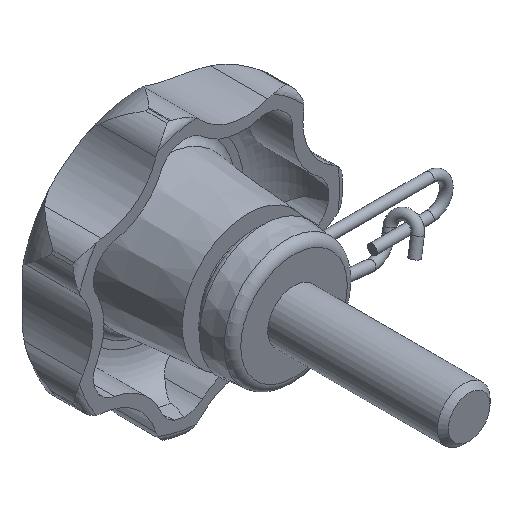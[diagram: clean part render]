
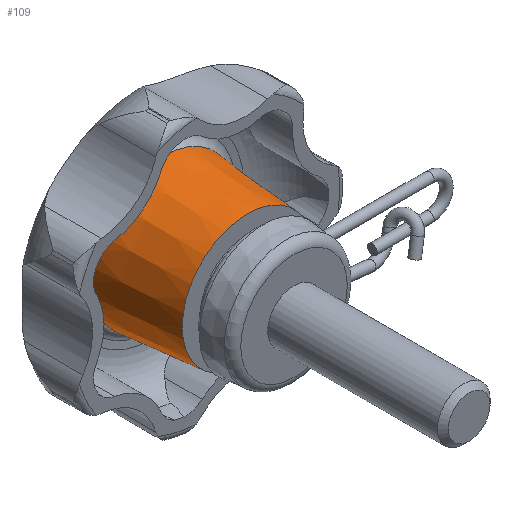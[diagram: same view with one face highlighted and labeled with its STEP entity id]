
A CAD part, isometric view. The second image highlights one B-rep face of the part: STEP entity #109.
In plain terms, the highlighted conical face has half-angle 5 degrees and reference radius 8.312 mm.
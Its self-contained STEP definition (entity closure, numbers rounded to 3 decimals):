
#109 = ADVANCED_FACE( '', ( #253, #254 ), #255, .T. );
#253 = FACE_BOUND( '', #480, .T. );
#254 = FACE_OUTER_BOUND( '', #481, .T. );
#255 = CONICAL_SURFACE( '', #482, 8.312, 0.087 );
#480 = EDGE_LOOP( '', ( #902 ) );
#481 = EDGE_LOOP( '', ( #903 ) );
#482 = AXIS2_PLACEMENT_3D( '', #904, #905, #906 );
#902 = ORIENTED_EDGE( '', *, *, #1541, .F. );
#903 = ORIENTED_EDGE( '', *, *, #1542, .T. );
#904 = CARTESIAN_POINT( '', ( 0., 14.976, 0. ) );
#905 = DIRECTION( '', ( 0., 1., 0. ) );
#906 = DIRECTION( '', ( 0., 0., 1. ) );
#1541 = EDGE_CURVE( '', #1891, #1891, #1892, .T. );
#1542 = EDGE_CURVE( '', #1893, #1893, #1894, .T. );
#1891 = VERTEX_POINT( '', #3042 );
#1892 = CIRCLE( '', #3043, 7.465 );
#1893 = VERTEX_POINT( '', #3044 );
#1894 = CIRCLE( '', #3045, 8.312 );
#3042 = CARTESIAN_POINT( '', ( 0., 5.3, -7.465 ) );
#3043 = AXIS2_PLACEMENT_3D( '', #3735, #3736, #3737 );
#3044 = CARTESIAN_POINT( '', ( 0., 14.976, -8.312 ) );
#3045 = AXIS2_PLACEMENT_3D( '', #3738, #3739, #3740 );
#3735 = CARTESIAN_POINT( '', ( 0., 5.3, 0. ) );
#3736 = DIRECTION( '', ( 0., -1., 0. ) );
#3737 = DIRECTION( '', ( 0., 0., -1. ) );
#3738 = CARTESIAN_POINT( '', ( 0., 14.976, 0. ) );
#3739 = DIRECTION( '', ( 0., -1., 0. ) );
#3740 = DIRECTION( '', ( 0., 0., -1. ) );
